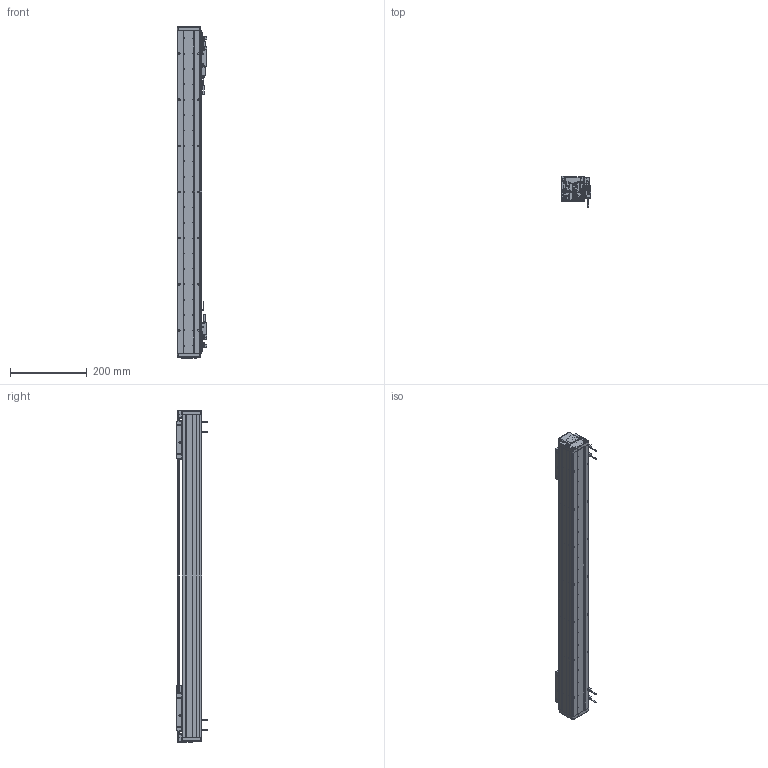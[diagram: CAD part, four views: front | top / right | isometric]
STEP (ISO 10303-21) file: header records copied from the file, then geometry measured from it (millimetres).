
FILE_DESCRIPTION (( 'STEP AP203' ), '1' );
FILE_NAME ('DA-A60-2-B1-T600-C010-0.2 眻盄萇儂.STEP', '2025-08-13T01:16:34', ( '' ), ( '' ), 'SwSTEP 2.0', 'SolidWorks 2019', '' );
FILE_SCHEMA (( 'CONFIG_CONTROL_DESIGN' ));
Length unit declared in the file: millimetre
Products named in the file (27): DA60-B1-HT-B-03 賑雄怢啣; AU60-V 幗紩賑怢-1; IU-AU60-L-00 菁釱(840); 复件 DA60-HC-XJ-01 中间缓冲橡胶^DA-A60-2-B1-T60-C010-0.2-N; 葩璃 DA60-HK-DP-01 結え^AU60-V 幗紩賑怢; AU60-L 菁釱絳寢; 葩璃 XD-U-02  棠掑喜^DA-A60-2-B1-T60-C010-0.2-N; DA-A60-2-B1-T600-C010-0.2 眻盄萇儂; ｸｴｼ BAKM01-W030-C1-TP-0.2 ﾖｱﾏﾟｵ扈巐ｯﾗﾓ^DA-A60-2-B1-T60-C010-0.2-N; DA60-T-002-00  裔啣; ｸｴｼ DA60-GYP-ZJ-01 ﾖﾐｼ荵箏邵ﾐﾓｦﾆｬ^DA-A60-2-B1-T60-C010-0.2-N(ﾄｬﾈﾏ); 葩璃 DA60-DMT-DTJ-00 黍杅芛盓殤^DA-A60-2-B1-T60-C010-0.2-N; 葩璃 DA60-XJ-00 砎蝶結輸^DA-A60-2-B1-T60-C010-0.2-N; ｸｴｼ DA60-DMT-DTJ-ZJ-00 ﾖﾐｼ荼ﾁﾊﾍｷﾖｧｼﾜ^DA-A60-2-B1-T60-C010-0.2-N; 葩璃 鞠褒情蹟譫 M3^DA-A60-2-B1-T60-C010-0.2-N(GB_FASTENER_NUT_STNAB M3-C); 复件 纯铜油杯 6x6mm^AU60-V 滚珠滑台; AU60-V 幗紩賑怢; 葩璃 PM-T45^DA-A60-2-B1-T60-C010-0.2-N; 复件 DA60-GT-T-00 底座钢轨^AU60-L 底座导轨; DA60-YT-B1-HT-B-01 珨极趙賑雄怢啣; DA60-YT-B1-HT-B-01 珨极趙賑雄怢啣-1; 复件 DA60-B1-GT-00 滑块钢轨^DA60-YT-B1-HT-B-01 一体化滑动台板; 葩璃 DA60-DG-H-N-00 傷裔^DA-A60-2-B1-T60-C010-0.2-N; 葩璃 DMT-010 1米m 0.2M^DA-A60-2-B1-T60-C010-0.2-N; 葩璃 AKM01-W030-TRL^DA-A60-2-B1-T60-C010-0.2-N; ｸｴｼ DA-A60-GYP-DMT-00 ｹ箏邵ﾐﾓｦﾆｬ^DA-A60-2-B1-T60-C010-0.2-N(ﾄｬﾈﾏ); 葩璃 PM-Y65^DA-A60-2-B1-T60-C010-0.2-N
Assembly tree (51 placements, depth 4):
  DA-A60-2-B1-T600-C010-0.2 眻盄萇儂
    AU60-L 菁釱絳寢
      IU-AU60-L-00 菁釱(840)
      复件 DA60-GT-T-00 底座钢轨^AU60-L 底座导轨  x2
    AU60-V 幗紩賑怢
      DA60-YT-B1-HT-B-01 珨极趙賑雄怢啣
        DA60-B1-HT-B-03 賑雄怢啣
        复件 DA60-B1-GT-00 滑块钢轨^DA60-YT-B1-HT-B-01 一体化滑动台板  x2
      葩璃 DA60-HK-DP-01 結え^AU60-V 幗紩賑怢  x2
      复件 纯铜油杯 6x6mm^AU60-V 滚珠滑台
    AU60-V 幗紩賑怢-1
      DA60-YT-B1-HT-B-01 珨极趙賑雄怢啣-1
        DA60-B1-HT-B-03 賑雄怢啣
        复件 DA60-B1-GT-00 滑块钢轨^DA60-YT-B1-HT-B-01 一体化滑动台板  x2
      葩璃 DA60-HK-DP-01 結え^AU60-V 幗紩賑怢  x2
      复件 纯铜油杯 6x6mm^AU60-V 滚珠滑台
    ｸｴｼ DA60-DMT-DTJ-ZJ-00 ﾖﾐｼ荼ﾁﾊﾍｷﾖｧｼﾜ^DA-A60-2-B1-T60-C010-0.2-N
    葩璃 PM-Y65^DA-A60-2-B1-T60-C010-0.2-N
    复件 DA60-HC-XJ-01 中间缓冲橡胶^DA-A60-2-B1-T60-C010-0.2-N  x2
    ｸｴｼ DA60-GYP-ZJ-01 ﾖﾐｼ荵箏邵ﾐﾓｦﾆｬ^DA-A60-2-B1-T60-C010-0.2-N(ﾄｬﾈﾏ)
    ｸｴｼ DA-A60-GYP-DMT-00 ｹ箏邵ﾐﾓｦﾆｬ^DA-A60-2-B1-T60-C010-0.2-N(ﾄｬﾈﾏ)  x2
    葩璃 DA60-DMT-DTJ-00 黍杅芛盓殤^DA-A60-2-B1-T60-C010-0.2-N
    葩璃 DMT-010 1米m 0.2M^DA-A60-2-B1-T60-C010-0.2-N  x2
    ｸｴｼ BAKM01-W030-C1-TP-0.2 ﾖｱﾏﾟｵ扈巐ｯﾗﾓ^DA-A60-2-B1-T60-C010-0.2-N  x2
    葩璃 DA60-XJ-00 砎蝶結輸^DA-A60-2-B1-T60-C010-0.2-N  x2
    葩璃 DA60-DG-H-N-00 傷裔^DA-A60-2-B1-T60-C010-0.2-N  x2
    DA60-T-002-00  裔啣
    葩璃 AKM01-W030-TRL^DA-A60-2-B1-T60-C010-0.2-N
    葩璃 PM-T45^DA-A60-2-B1-T60-C010-0.2-N  x4
    葩璃 XD-U-02  棠掑喜^DA-A60-2-B1-T60-C010-0.2-N
    葩璃 鞠褒情蹟譫 M3^DA-A60-2-B1-T60-C010-0.2-N(GB_FASTENER_NUT_STNAB M3-C)  x8
Bounding box: 76.95 x 80 x 864 mm (x, y, z)
Volume: 1930630.5 mm3; surface area: 693882 mm2
Topology: 57 solids, 61 shells, 3823 faces, 9817 edges, 6006 vertices
Faces by surface type: plane 1476, cylinder 1399, bspline 592, cone 342, torus 12, sphere 2
Entity records: 86103 total; most frequent: CARTESIAN_POINT 26339, ORIENTED_EDGE 12188, DIRECTION 11137, EDGE_CURVE 6094, AXIS2_PLACEMENT_3D 3874, VERTEX_POINT 3845, VECTOR 3389, LINE 3389
